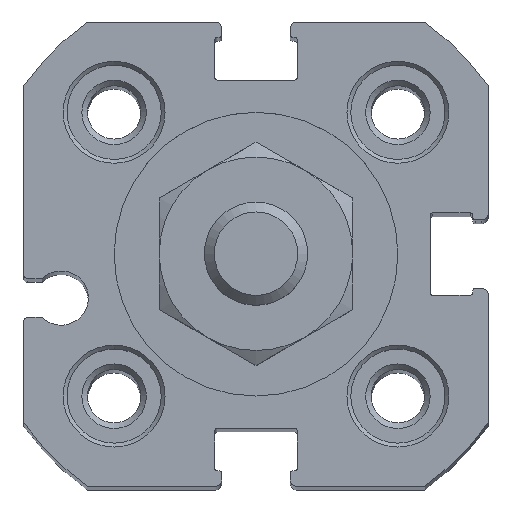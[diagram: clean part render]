
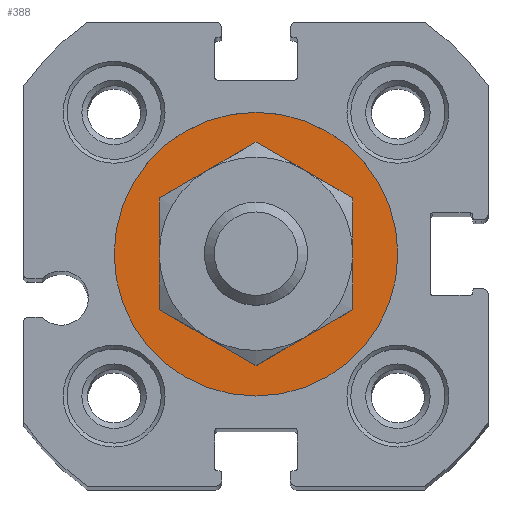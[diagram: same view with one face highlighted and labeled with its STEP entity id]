
A CAD part, top view. The second image highlights one B-rep face of the part: STEP entity #388.
In plain terms, the highlighted planar face has unit normal (0, 0, 1).
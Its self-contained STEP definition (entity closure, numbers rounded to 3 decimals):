
#388 = ADVANCED_FACE( '', ( #855, #856 ), #857, .T. );
#855 = FACE_BOUND( '', #1401, .T. );
#856 = FACE_OUTER_BOUND( '', #1402, .T. );
#857 = PLANE( '', #1403 );
#1401 = EDGE_LOOP( '', ( #2319 ) );
#1402 = EDGE_LOOP( '', ( #2320 ) );
#1403 = AXIS2_PLACEMENT_3D( '', #2321, #2322, #2323 );
#2319 = ORIENTED_EDGE( '', *, *, #3207, .F. );
#2320 = ORIENTED_EDGE( '', *, *, #3173, .T. );
#2321 = CARTESIAN_POINT( '', ( 0., 0., -1.2 ) );
#2322 = DIRECTION( '', ( 0., 0., 1. ) );
#2323 = DIRECTION( '', ( 1., 0., 0. ) );
#3173 = EDGE_CURVE( '', #3821, #3821, #3822, .T. );
#3207 = EDGE_CURVE( '', #3869, #3869, #3870, .T. );
#3821 = VERTEX_POINT( '', #4706 );
#3822 = CIRCLE( '', #4707, 11. );
#3869 = VERTEX_POINT( '', #4768 );
#3870 = CIRCLE( '', #4769, 6.5 );
#4706 = CARTESIAN_POINT( '', ( 11., 0., -1.2 ) );
#4707 = AXIS2_PLACEMENT_3D( '', #5432, #5433, #5434 );
#4768 = CARTESIAN_POINT( '', ( 6.5, 0., -1.2 ) );
#4769 = AXIS2_PLACEMENT_3D( '', #5481, #5482, #5483 );
#5432 = CARTESIAN_POINT( '', ( 0., 0., -1.2 ) );
#5433 = DIRECTION( '', ( 0., 0., 1. ) );
#5434 = DIRECTION( '', ( 1., 0., 0. ) );
#5481 = CARTESIAN_POINT( '', ( 0., 0., -1.2 ) );
#5482 = DIRECTION( '', ( 0., 0., 1. ) );
#5483 = DIRECTION( '', ( 1., 0., 0. ) );
